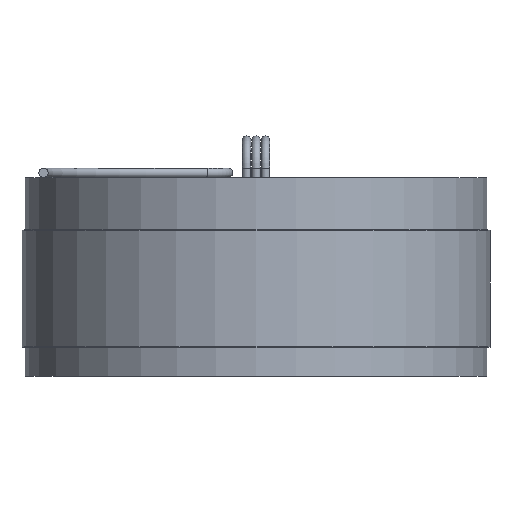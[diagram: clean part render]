
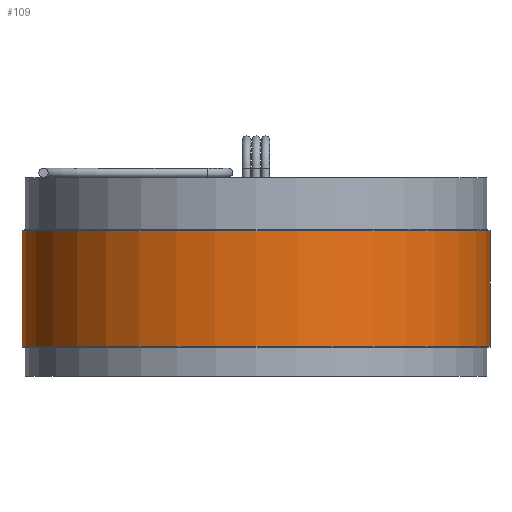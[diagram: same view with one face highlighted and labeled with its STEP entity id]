
A CAD part, front view. The second image highlights one B-rep face of the part: STEP entity #109.
In plain terms, the highlighted cylindrical face has radius 63.5 mm (diameter 127 mm), a full revolution.
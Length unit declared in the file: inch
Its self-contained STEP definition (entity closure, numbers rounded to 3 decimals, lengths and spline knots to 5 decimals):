
#6 = AXIS2_PLACEMENT_3D ( 'NONE', #1394, #1397, #1258 ) ;
#109 = ADVANCED_FACE ( 'NONE', ( #610, #1417 ), #510, .T. ) ;
#158 = DIRECTION ( 'NONE',  ( 0., 0., 1. ) ) ;
#290 = ORIENTED_EDGE ( 'NONE', *, *, #1172, .T. ) ;
#305 = CARTESIAN_POINT ( 'NONE',  ( 2.5, 0., 0.61713 ) ) ;
#316 = CIRCLE ( 'NONE', #6, 2.5 ) ;
#397 = ORIENTED_EDGE ( 'NONE', *, *, #455, .F. ) ;
#438 = EDGE_LOOP ( 'NONE', ( #290 ) ) ;
#455 = EDGE_CURVE ( 'NONE', #861, #861, #1420, .T. ) ;
#510 = CYLINDRICAL_SURFACE ( 'NONE', #797, 2.5 ) ;
#539 = DIRECTION ( 'NONE',  ( 0., 0., 1. ) ) ;
#554 = AXIS2_PLACEMENT_3D ( 'NONE', #1167, #539, #764 ) ;
#610 = FACE_OUTER_BOUND ( 'NONE', #1363, .T. ) ;
#712 = DIRECTION ( 'NONE',  ( 1., 0., 0. ) ) ;
#764 = DIRECTION ( 'NONE',  ( 1., 0., 0. ) ) ;
#797 = AXIS2_PLACEMENT_3D ( 'NONE', #1350, #158, #712 ) ;
#861 = VERTEX_POINT ( 'NONE', #305 ) ;
#1052 = CARTESIAN_POINT ( 'NONE',  ( 2.5, 0., -0.61713 ) ) ;
#1167 = CARTESIAN_POINT ( 'NONE',  ( 0., 0., 0.61713 ) ) ;
#1169 = VERTEX_POINT ( 'NONE', #1052 ) ;
#1172 = EDGE_CURVE ( 'NONE', #1169, #1169, #316, .T. ) ;
#1258 = DIRECTION ( 'NONE',  ( 1., 0., 0. ) ) ;
#1350 = CARTESIAN_POINT ( 'NONE',  ( 0., 0., -0.635 ) ) ;
#1363 = EDGE_LOOP ( 'NONE', ( #397 ) ) ;
#1394 = CARTESIAN_POINT ( 'NONE',  ( 0., 0., -0.61713 ) ) ;
#1397 = DIRECTION ( 'NONE',  ( 0., 0., 1. ) ) ;
#1417 = FACE_OUTER_BOUND ( 'NONE', #438, .T. ) ;
#1420 = CIRCLE ( 'NONE', #554, 2.5 ) ;
